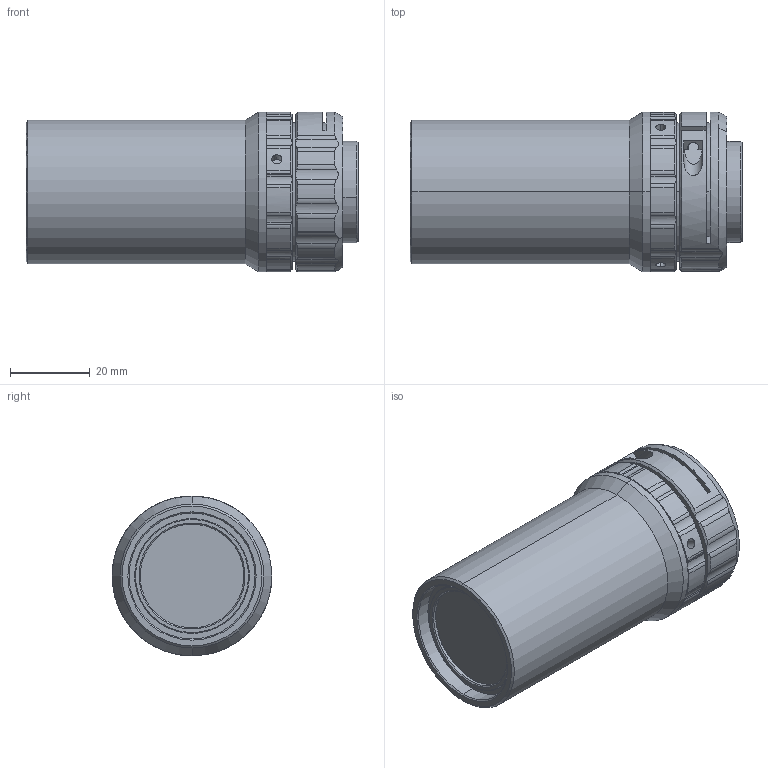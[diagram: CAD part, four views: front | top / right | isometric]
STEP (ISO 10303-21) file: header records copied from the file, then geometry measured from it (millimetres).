
FILE_DESCRIPTION (( 'STEP AP203' ), '1' );
FILE_NAME ('WWT121-025-338.STEP', '2022-06-23T06:21:59', ( '' ), ( '' ), 'SwSTEP 2.0', 'SolidWorks 2017', '' );
FILE_SCHEMA (( 'CONFIG_CONTROL_DESIGN' ));
Length unit declared in the file: millimetre
Products named in the file (1): WWT121-025-338
Bounding box: 83.1 x 40 x 40 mm (x, y, z)
Volume: 83535.1 mm3; surface area: 13462.3 mm2
Topology: 1 solids, 1 shells, 198 faces, 504 edges, 314 vertices
Faces by surface type: cylinder 114, plane 43, cone 41
Entity records: 6746 total; most frequent: CARTESIAN_POINT 1958, ORIENTED_EDGE 1004, DIRECTION 997, EDGE_CURVE 502, AXIS2_PLACEMENT_3D 421, VERTEX_POINT 314, CIRCLE 222, EDGE_LOOP 208
